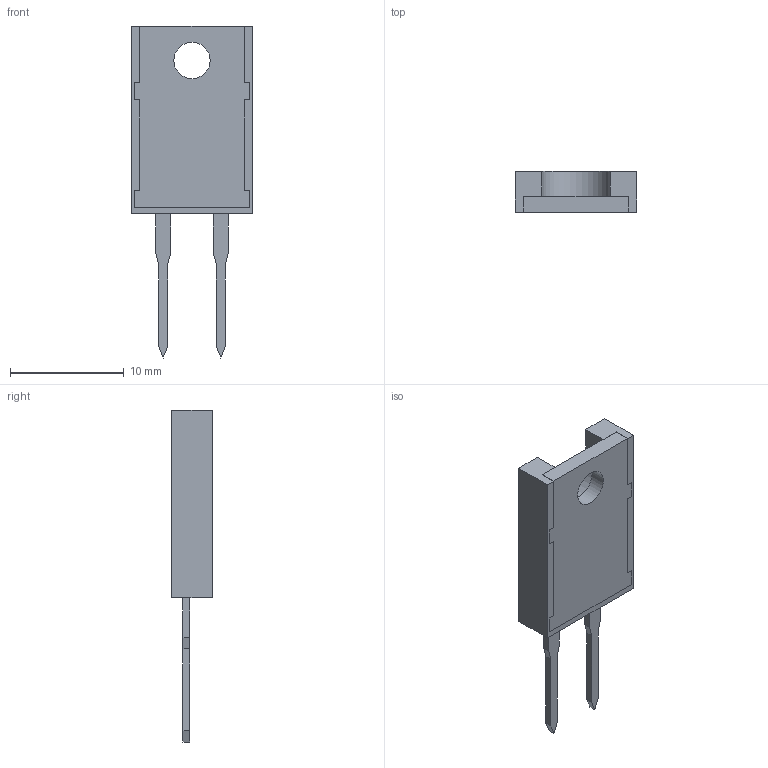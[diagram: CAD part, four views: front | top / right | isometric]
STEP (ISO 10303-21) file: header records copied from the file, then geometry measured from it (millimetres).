
FILE_DESCRIPTION(('STEP AP203'), '1');
FILE_NAME('ﾐ1-150ﾂﾃ', '', ('UNSPECIFIED'), ('UNSPECIFIED'), 'ASCON STEP Converter 1.6', 'ASCON Math Kernel', '');
FILE_SCHEMA(('CONFIG_CONTROL_DESIGN'));
Length unit declared in the file: millimetre
Bounding box: 10.7 x 3.6 x 29.23 mm (x, y, z)
Volume: 568.1 mm3; surface area: 1006.5 mm2
Topology: 2 solids, 2 shells, 65 faces, 177 edges, 118 vertices
Faces by surface type: plane 63, cylinder 2
Full cylindrical faces by diameter (mm): 3.2 x1
Entity records: 2584 total; most frequent: CARTESIAN_POINT 360, ORIENTED_EDGE 352, DIRECTION 312, EDGE_CURVE 176, LINE 172, VECTOR 172, VERTEX_POINT 118, AXIS2_PLACEMENT_3D 70
